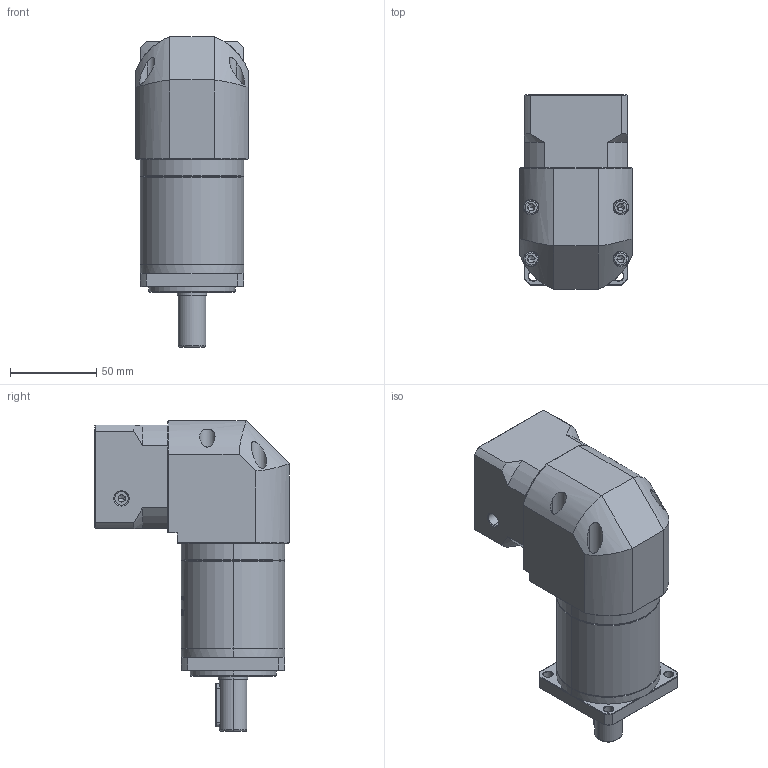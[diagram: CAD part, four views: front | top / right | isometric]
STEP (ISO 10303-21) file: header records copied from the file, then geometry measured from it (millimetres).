
FILE_DESCRIPTION (( 'STEP AP214' ), '1' );
FILE_NAME ('ZFR060-D16-L2-P2-11-50-70-M4.step', '2023-08-17T03:34:29', ( '' ), ( '' ), 'SwSTEP 2.0', 'SolidWorks 2016', '' );
FILE_SCHEMA (( 'AUTOMOTIVE_DESIGN' ));
Length unit declared in the file: millimetre
Products named in the file (1): ZFR060-D16-L2-P2-11-50-70-M4
Bounding box: 65 x 112.7 x 180 mm (x, y, z)
Volume: 588334.1 mm3; surface area: 81695.9 mm2
Topology: 5 solids, 6 shells, 1914 faces, 5129 edges, 3312 vertices
Faces by surface type: plane 847, cylinder 399, bspline 354, cone 290, torus 24
Entity records: 104186 total; most frequent: CARTESIAN_POINT 39410, ORIENTED_EDGE 10214, DIRECTION 7648, EDGE_CURVE 5107, VERTEX_POINT 3312, LINE 2594, VECTOR 2594, AXIS2_PLACEMENT_3D 2527
